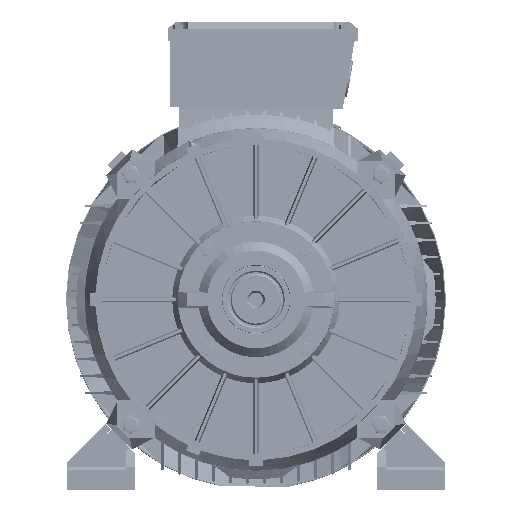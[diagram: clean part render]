
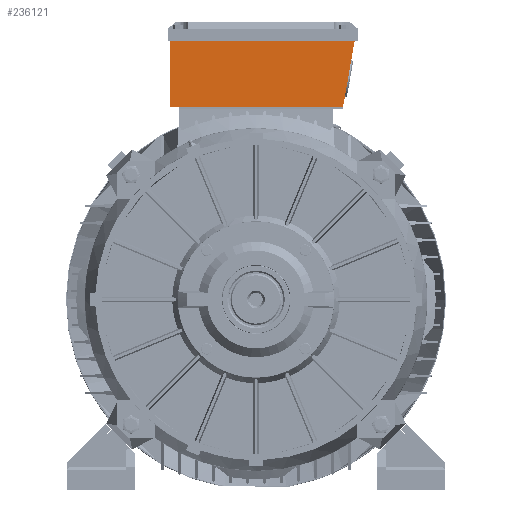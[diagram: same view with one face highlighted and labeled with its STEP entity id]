
A CAD part, left-side view. The second image highlights one B-rep face of the part: STEP entity #236121.
In plain terms, the highlighted planar face has unit normal (-1, 0, 0) as drawn and (0, 0, 1) by its records, which use the part's own axes.
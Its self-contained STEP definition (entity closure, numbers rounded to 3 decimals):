
#83484 = CARTESIAN_POINT ( 'NONE',  ( 271.033, 100., 118.5 ) ) ;
#83516 = CARTESIAN_POINT ( 'NONE',  ( 253.929, 3., 118.5 ) ) ;
#83521 = DIRECTION ( 'NONE',  ( 0.174, 0.985, 0. ) ) ;
#83522 = VECTOR ( 'NONE', #83521, 1000. ) ;
#83523 = CARTESIAN_POINT ( 'NONE',  ( 253.4, 0., 118.5 ) ) ;
#83524 = LINE ( 'NONE', #83523, #83522 ) ;
#84187 = DIRECTION ( 'NONE',  ( 1., 0., 0. ) ) ;
#84188 = DIRECTION ( 'NONE',  ( 0., 0., 1. ) ) ;
#84189 = AXIS2_PLACEMENT_3D ( 'NONE', #84191, #84188, #84187 ) ;
#84191 = CARTESIAN_POINT ( 'NONE',  ( 13.5, 0., 118.5 ) ) ;
#84192 = PLANE ( 'NONE',  #84189 ) ;
#84193 = FACE_OUTER_BOUND ( 'NONE', #236133, .T. ) ;
#84252 = DIRECTION ( 'NONE',  ( 0., -1., 0. ) ) ;
#84253 = VECTOR ( 'NONE', #84252, 1000. ) ;
#84254 = CARTESIAN_POINT ( 'NONE',  ( 0., 3., 118.5 ) ) ;
#84255 = LINE ( 'NONE', #84254, #84253 ) ;
#84397 = CARTESIAN_POINT ( 'NONE',  ( 0., 3., 118.5 ) ) ;
#84402 = DIRECTION ( 'NONE',  ( 1., 0., 0. ) ) ;
#84403 = VECTOR ( 'NONE', #84402, 1000. ) ;
#84404 = CARTESIAN_POINT ( 'NONE',  ( 0., 3., 118.5 ) ) ;
#84405 = LINE ( 'NONE', #84404, #84403 ) ;
#84420 = CARTESIAN_POINT ( 'NONE',  ( 0., 100., 118.5 ) ) ;
#84422 = DIRECTION ( 'NONE',  ( -1., 0., 0. ) ) ;
#84423 = VECTOR ( 'NONE', #84422, 1000. ) ;
#84424 = CARTESIAN_POINT ( 'NONE',  ( 0., 100., 118.5 ) ) ;
#84425 = LINE ( 'NONE', #84424, #84423 ) ;
#169313 = VERTEX_POINT ( 'NONE', #83484 ) ;
#169355 = EDGE_CURVE ( 'NONE', #169359, #169313, #83524, .T. ) ;
#169359 = VERTEX_POINT ( 'NONE', #83516 ) ;
#236121 = ADVANCED_FACE ( 'NONE', ( #84193 ), #84192, .T. ) ;
#236133 = EDGE_LOOP ( 'NONE', ( #236365, #236387, #236391, #236420 ) ) ;
#236215 = EDGE_CURVE ( 'NONE', #236407, #236376, #84255, .T. ) ;
#236365 = ORIENTED_EDGE ( 'NONE', *, *, #236372, .T. ) ;
#236372 = EDGE_CURVE ( 'NONE', #236376, #169359, #84405, .T. ) ;
#236376 = VERTEX_POINT ( 'NONE', #84397 ) ;
#236387 = ORIENTED_EDGE ( 'NONE', *, *, #169355, .T. ) ;
#236391 = ORIENTED_EDGE ( 'NONE', *, *, #236396, .T. ) ;
#236396 = EDGE_CURVE ( 'NONE', #169313, #236407, #84425, .T. ) ;
#236407 = VERTEX_POINT ( 'NONE', #84420 ) ;
#236420 = ORIENTED_EDGE ( 'NONE', *, *, #236215, .T. ) ;
